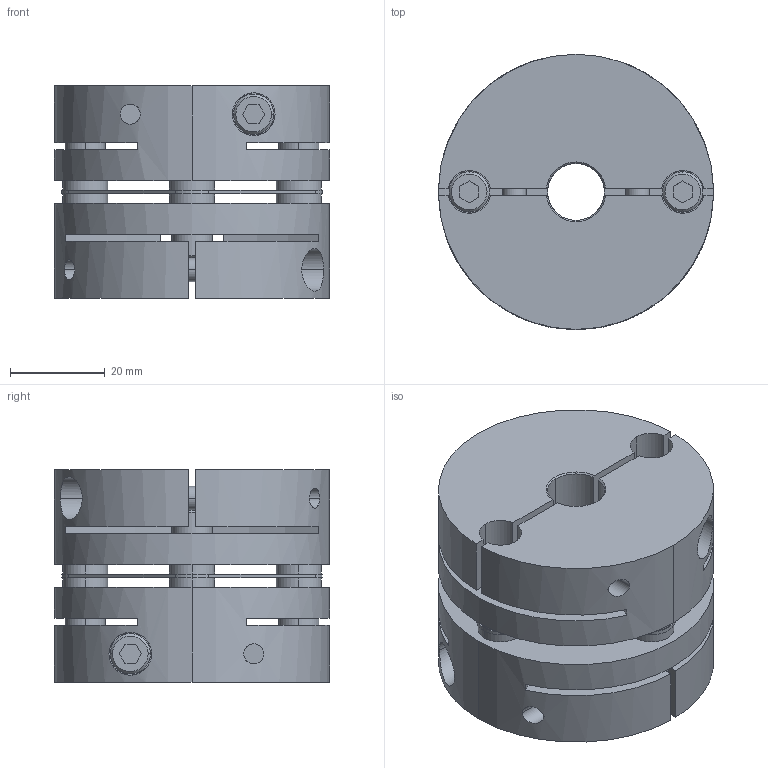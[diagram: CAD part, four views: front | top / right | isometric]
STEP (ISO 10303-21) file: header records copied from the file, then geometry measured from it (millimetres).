
FILE_DESCRIPTION((''),'2;1');
FILE_NAME('LAS-58C-12×16.stp','2011-08-09T15:17:08',(''),(''),'AutoCAD STEP 2000i','AutoCAD 2000i',', , ');
FILE_SCHEMA(('CONFIG_CONTROL_DESIGN'));
Length unit declared in the file: millimetre
Products named in the file (5): LAS-58C-12×12; 忣兜1; LA-5802-D12-1; LA-5802-D12; LAS58-ITA
Assembly tree (4 placements, depth 2):
  LAS-58C-12×12
    忣兜1
    LA-5802-D12-1
    LA-5802-D12
    LAS58-ITA
Bounding box: 58 x 58 x 44.8 mm (x, y, z)
Volume: 89115.4 mm3; surface area: 33890.4 mm2
Topology: 1 solids, 1 shells, 236 faces, 600 edges, 392 vertices
Faces by surface type: plane 112, cylinder 96, cone 28
Entity records: 7859 total; most frequent: CARTESIAN_POINT 1777, DIRECTION 1294, ORIENTED_EDGE 1200, EDGE_CURVE 600, AXIS2_PLACEMENT_3D 477, VERTEX_POINT 392, VECTOR 340, LINE 340
